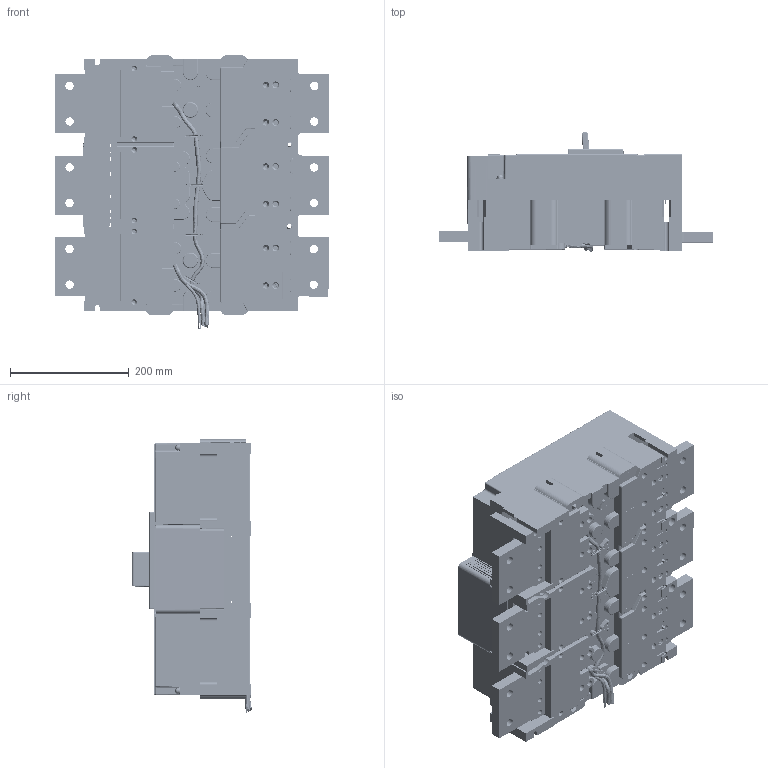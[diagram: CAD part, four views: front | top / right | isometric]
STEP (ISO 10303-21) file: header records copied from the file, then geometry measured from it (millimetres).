
FILE_DESCRIPTION (( 'STEP AP203' ), '1' );
FILE_NAME ('ﾂﾀ55-43 (1600ﾀ).STEP', '2014-12-04T06:55:56', ( 'admin' ), ( '' ), 'SwSTEP 2.0', 'SolidWorks 2007', '' );
FILE_SCHEMA (( 'CONFIG_CONTROL_DESIGN' ));
Products named in the file (1): ﾂﾀ55-43 (1600ﾀ)
Bounding box: 462.82 x 201.4 x 460.79 mm (x, y, z)
Surface area: 1382537.4 mm2 (no closed solid volume)
Topology: 0 solids, 568 shells, 3808 faces, 17870 edges, 14471 vertices
Faces by surface type: plane 1713, cylinder 1241, bspline 435, cone 274, torus 128, sphere 17
Entity records: 218754 total; most frequent: CARTESIAN_POINT 83309, DIRECTION 25621, ORIENTED_EDGE 24536, EDGE_CURVE 17851, VERTEX_POINT 14471, LINE 11429, VECTOR 11429, AXIS2_PLACEMENT_3D 7096
